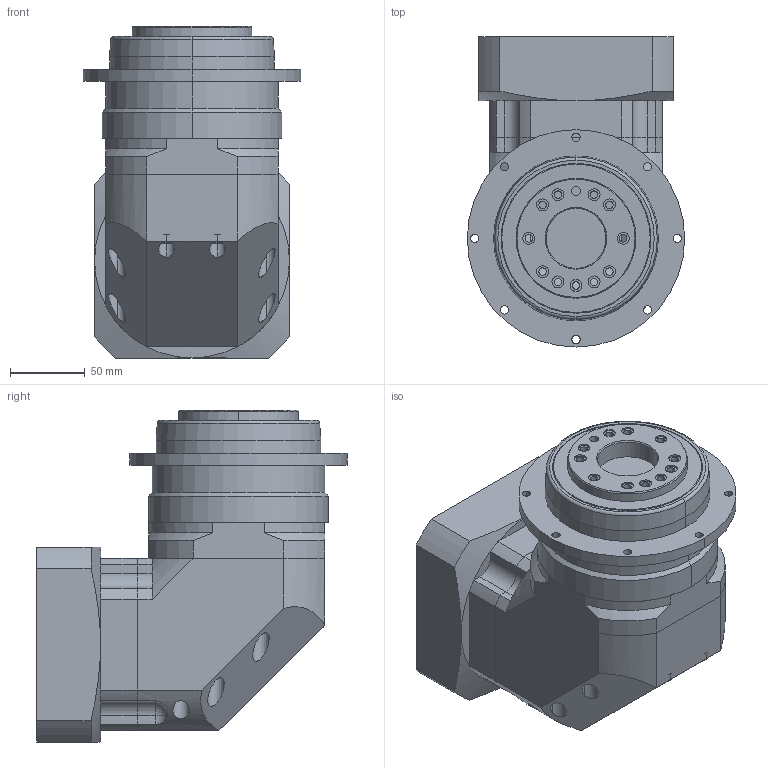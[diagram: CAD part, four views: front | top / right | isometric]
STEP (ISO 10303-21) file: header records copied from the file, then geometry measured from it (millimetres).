
FILE_DESCRIPTION (( 'STEP AP214' ), '1' );
FILE_NAME ('陔こ彸秶.STEP', '2021-03-20T08:49:43', ( '' ), ( '' ), 'SwSTEP 2.0', 'SolidWorks 2016', '' );
FILE_SCHEMA (( 'AUTOMOTIVE_DESIGN' ));
Length unit declared in the file: millimetre
Products named in the file (1): 陔こ彸秶
Bounding box: 145 x 207 x 221.5 mm (x, y, z)
Surface area: 225964.9 mm2 (no closed solid volume)
Topology: 0 solids, 26 shells, 455 faces, 1407 edges, 964 vertices
Faces by surface type: cylinder 200, plane 177, cone 44, torus 32, bspline 2
Entity records: 21475 total; most frequent: CARTESIAN_POINT 3606, DIRECTION 2885, ORIENTED_EDGE 2336, EDGE_CURVE 1395, AXIS2_PLACEMENT_3D 1104, VERTEX_POINT 964, VECTOR 677, LINE 677
